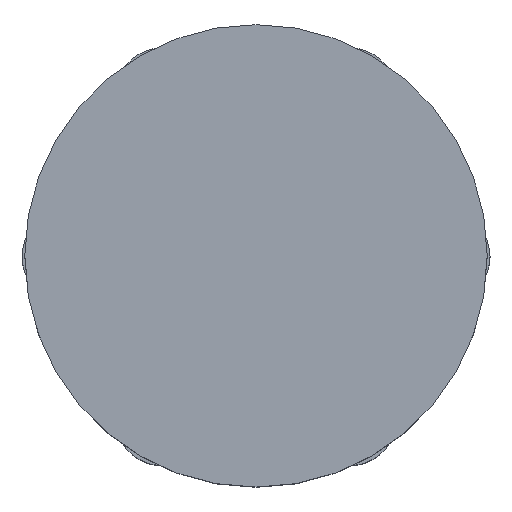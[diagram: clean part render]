
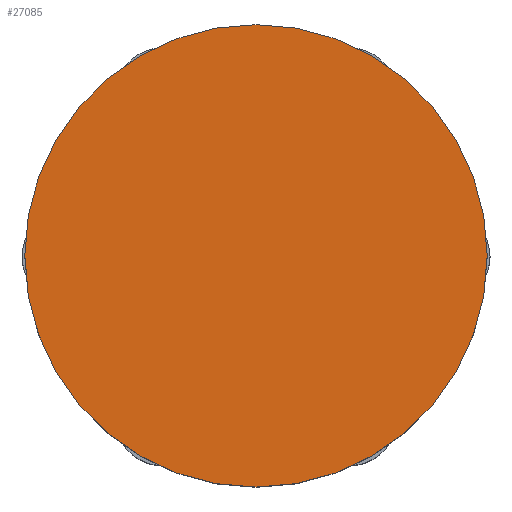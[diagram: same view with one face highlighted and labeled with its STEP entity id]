
A CAD part, top view. The second image highlights one B-rep face of the part: STEP entity #27085.
In plain terms, the highlighted planar face has unit normal (0, 0, 1).
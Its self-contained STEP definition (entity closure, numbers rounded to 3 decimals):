
#11084=CARTESIAN_POINT('',(0.,0.,73.5));
#11085=DIRECTION('',(0.,0.,1.));
#11086=DIRECTION('',(1.,0.,0.));
#11087=AXIS2_PLACEMENT_3D('',#11084,#11085,#11086);
#11089=CARTESIAN_POINT('',(0.,0.,73.5));
#11090=DIRECTION('',(0.,0.,1.));
#11091=DIRECTION('',(-1.,0.,0.));
#11092=AXIS2_PLACEMENT_3D('',#11089,#11090,#11091);
#11425=CARTESIAN_POINT('',(20.,0.,73.5));
#11426=CARTESIAN_POINT('',(-20.,0.,73.5));
#11427=VERTEX_POINT('',#11425);
#11428=VERTEX_POINT('',#11426);
#27076=CARTESIAN_POINT('',(0.,0.,73.5));
#27077=DIRECTION('',(0.,0.,1.));
#27078=DIRECTION('',(1.,0.,0.));
#27079=AXIS2_PLACEMENT_3D('',#27076,#27077,#27078);
#27080=PLANE('',#27079);
#27081=ORIENTED_EDGE('',*,*,#27058,.F.);
#27082=ORIENTED_EDGE('',*,*,#27043,.F.);
#27083=EDGE_LOOP('',(#27081,#27082));
#27084=FACE_OUTER_BOUND('',#27083,.F.);
#27085=ADVANCED_FACE('',(#27084),#27080,.T.);
#11088=CIRCLE('',#11087,20.);
#11093=CIRCLE('',#11092,20.);
#27043=EDGE_CURVE('',#11428,#11427,#11093,.T.);
#27058=EDGE_CURVE('',#11427,#11428,#11088,.T.);
